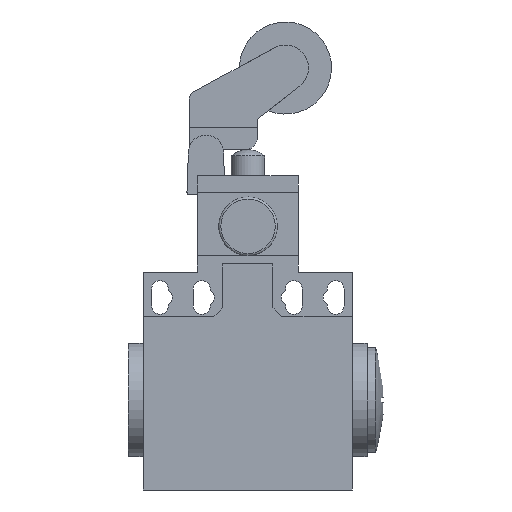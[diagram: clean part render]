
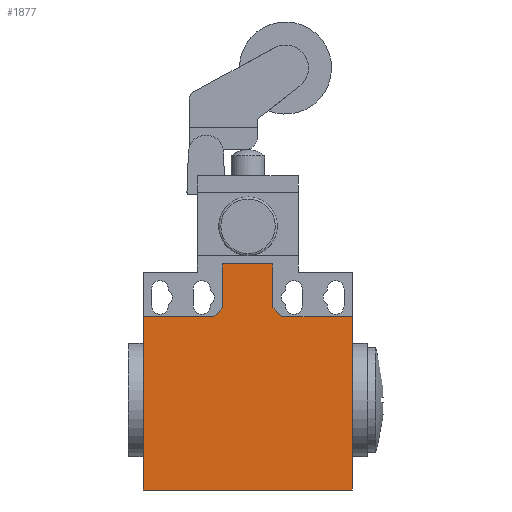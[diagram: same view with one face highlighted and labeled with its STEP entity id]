
A CAD part, front view. The second image highlights one B-rep face of the part: STEP entity #1877.
In plain terms, the highlighted planar face has unit normal (0, -1, 0).
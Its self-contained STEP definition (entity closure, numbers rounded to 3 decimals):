
#438=CARTESIAN_POINT('',(-25.0,-16.5,0.0));
#439=VERTEX_POINT('',#438);
#446=CARTESIAN_POINT('',(-25.0,-16.5,41.4));
#447=VERTEX_POINT('',#446);
#448=CARTESIAN_POINT('',(-25.0,-16.5,0.0));
#449=DIRECTION('',(0.0,0.0,1.0));
#450=VECTOR('',#449,41.4);
#451=LINE('',#448,#450);
#452=EDGE_CURVE('',#439,#447,#451,.T.);
#846=CARTESIAN_POINT('',(25.0,-16.5,41.4));
#847=VERTEX_POINT('',#846);
#854=CARTESIAN_POINT('',(25.0,-16.5,0.0));
#855=VERTEX_POINT('',#854);
#856=CARTESIAN_POINT('',(25.0,-16.5,0.0));
#857=DIRECTION('',(0.0,0.0,1.0));
#858=VECTOR('',#857,41.4);
#859=LINE('',#856,#858);
#860=EDGE_CURVE('',#855,#847,#859,.T.);
#1008=CARTESIAN_POINT('',(-6.,-16.5,54.0));
#1009=VERTEX_POINT('',#1008);
#1016=CARTESIAN_POINT('',(6.,-16.5,54.0));
#1017=VERTEX_POINT('',#1016);
#1018=CARTESIAN_POINT('',(6.,-16.5,54.0));
#1019=DIRECTION('',(-1.0,0.0,0.0));
#1020=VECTOR('',#1019,12.);
#1021=LINE('',#1018,#1020);
#1022=EDGE_CURVE('',#1017,#1009,#1021,.T.);
#1046=CARTESIAN_POINT('',(8.121,-16.5,41.4));
#1047=VERTEX_POINT('',#1046);
#1054=CARTESIAN_POINT('',(25.0,-16.5,41.4));
#1055=DIRECTION('',(-1.0,0.0,0.0));
#1056=VECTOR('',#1055,16.879);
#1057=LINE('',#1054,#1056);
#1058=EDGE_CURVE('',#847,#1047,#1057,.T.);
#1077=CARTESIAN_POINT('',(6.,-16.5,43.521));
#1078=VERTEX_POINT('',#1077);
#1085=CARTESIAN_POINT('',(8.121,-16.5,41.4));
#1086=DIRECTION('',(-0.707,0.0,0.707));
#1087=VECTOR('',#1086,3.);
#1088=LINE('',#1085,#1087);
#1089=EDGE_CURVE('',#1047,#1078,#1088,.T.);
#1107=CARTESIAN_POINT('',(6.,-16.5,43.521));
#1108=DIRECTION('',(0.0,0.0,1.0));
#1109=VECTOR('',#1108,10.479);
#1110=LINE('',#1107,#1109);
#1111=EDGE_CURVE('',#1078,#1017,#1110,.T.);
#1501=CARTESIAN_POINT('',(-8.121,-16.5,41.4));
#1502=VERTEX_POINT('',#1501);
#1503=CARTESIAN_POINT('',(-8.121,-16.5,41.4));
#1504=DIRECTION('',(-1.0,0.0,0.0));
#1505=VECTOR('',#1504,16.879);
#1506=LINE('',#1503,#1505);
#1507=EDGE_CURVE('',#1502,#447,#1506,.T.);
#1525=CARTESIAN_POINT('',(-6.,-16.5,43.521));
#1526=VERTEX_POINT('',#1525);
#1527=CARTESIAN_POINT('',(-6.,-16.5,43.521));
#1528=DIRECTION('',(-0.707,0.0,-0.707));
#1529=VECTOR('',#1528,3.);
#1530=LINE('',#1527,#1529);
#1531=EDGE_CURVE('',#1526,#1502,#1530,.T.);
#1549=CARTESIAN_POINT('',(-6.,-16.5,54.0));
#1550=DIRECTION('',(0.0,0.0,-1.0));
#1551=VECTOR('',#1550,10.479);
#1552=LINE('',#1549,#1551);
#1553=EDGE_CURVE('',#1009,#1526,#1552,.T.);
#1855=CARTESIAN_POINT('',(25.0,-16.5,0.0));
#1856=DIRECTION('',(0.0,-1.0,0.0));
#1857=DIRECTION('',(0.0,0.0,-1.0));
#1858=AXIS2_PLACEMENT_3D('',#1855,#1856,#1857);
#1859=PLANE('',#1858);
#1860=ORIENTED_EDGE('',*,*,#1111,.T.);
#1861=ORIENTED_EDGE('',*,*,#1022,.T.);
#1862=ORIENTED_EDGE('',*,*,#1553,.T.);
#1863=ORIENTED_EDGE('',*,*,#1531,.T.);
#1864=ORIENTED_EDGE('',*,*,#1507,.T.);
#1865=ORIENTED_EDGE('',*,*,#452,.F.);
#1866=CARTESIAN_POINT('',(25.0,-16.5,0.0));
#1867=DIRECTION('',(-1.0,0.0,0.0));
#1868=VECTOR('',#1867,50.0);
#1869=LINE('',#1866,#1868);
#1870=EDGE_CURVE('',#855,#439,#1869,.T.);
#1871=ORIENTED_EDGE('',*,*,#1870,.F.);
#1872=ORIENTED_EDGE('',*,*,#860,.T.);
#1873=ORIENTED_EDGE('',*,*,#1058,.T.);
#1874=ORIENTED_EDGE('',*,*,#1089,.T.);
#1875=EDGE_LOOP('',(#1860,#1861,#1862,#1863,#1864,#1865,#1871,#1872,#1873,#1874));
#1876=FACE_OUTER_BOUND('',#1875,.T.);
#1877=ADVANCED_FACE('',(#1876),#1859,.T.);
